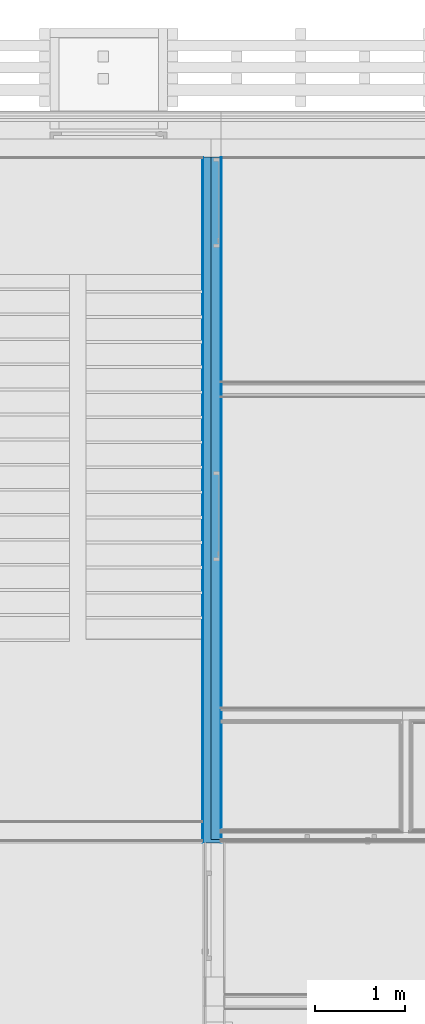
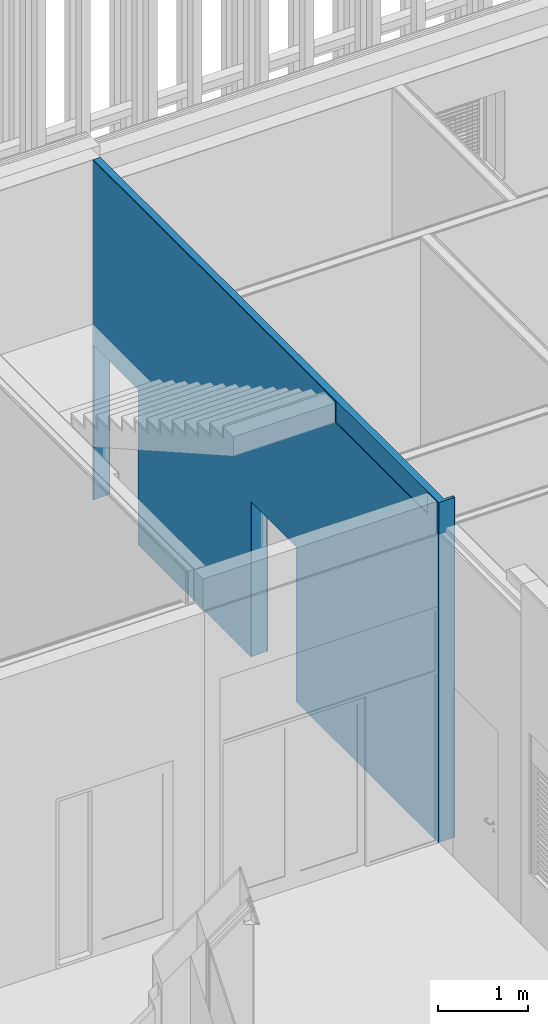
# One storey, part 118 of 260: 3 building element parts, 2 openings, 1 element without a shape of its own.
"""IFC2X3 building model written with IfcOpenShell, lengths in millimetres."""

import ifcopenshell
import ifcopenshell.guid

model = None  # the IFC model being written
_history = None  # IfcOwnerHistory: only IFC2X3 demands one
_inside = {}  # id of a spatial element -> (the spatial element, [elements in it])
_under = {}  # id of a project, library or spatial element -> (it, [spatial elements below it])
_declared = {}  # id of a project -> (the project, [libraries it declares])
_typed = {}  # id of a type object -> (the type object, [elements of that type])
_made_of = {}  # id of a material, layer set ... -> (it, [elements and type objects made of it])


def new_model(schema):
    """Start an empty IFC model of exactly this schema.

    Asked for "IFC4X3", IfcOpenShell would pick the latest addendum, in which some entities
    have other attributes; the version numbers below select the first issue.
    IFC2X3 requires an IfcOwnerHistory on every rooted entity: one is made here for all.
    """
    global model, _history
    if schema == "IFC4X3":
        model = ifcopenshell.file(schema_version=(4, 3, 0, 0))
    else:
        model = ifcopenshell.file(schema=schema)
    _inside.clear()
    _under.clear()
    _declared.clear()
    _typed.clear()
    _made_of.clear()
    _history = None
    if model.schema == "IFC2X3":
        org = make("IfcOrganization", Name="unknown")
        user = make(
            "IfcPersonAndOrganization",
            ThePerson=make("IfcPerson", FamilyName="unknown"),
            TheOrganization=org,
        )
        app = make(
            "IfcApplication",
            ApplicationDeveloper=org,
            Version="unknown",
            ApplicationFullName="unknown",
            ApplicationIdentifier="unknown",
        )
        _history = make(
            "IfcOwnerHistory",
            OwningUser=user,
            OwningApplication=app,
            ChangeAction="ADDED",
            CreationDate=0,
        )
    return model


def make(cls, **values):
    """One entity of the class cls with the attributes given. An attribute that is None is left unset."""
    return model.create_entity(
        cls, **{name: value for name, value in values.items() if value is not None}
    )


def entity(cls, *values):
    """Any entity or typed value of the class cls, its attributes in the order of the schema. None: left unset."""
    e = model.create_entity(cls)
    for i, value in enumerate(values):
        if value is not None:
            e[i] = value
    return e


def rooted(cls, **values):
    """An entity with a GlobalId (a new one), such as an element, a storey or a relation."""
    return make(cls, GlobalId=ifcopenshell.guid.new(), OwnerHistory=_history, **values)


def si_unit(unit_type, name, prefix=None):
    """IfcSIUnit, for example si_unit("LENGTHUNIT", "METRE", prefix="MILLI")."""
    return make("IfcSIUnit", UnitType=unit_type, Prefix=prefix, Name=name)


def converted_unit(unit_type, name, factor, base, dimensions=None, offset=None):
    """IfcConversionBasedUnit, such as the inch: factor (a typed value) times the base unit."""
    return make(
        "IfcConversionBasedUnit"
        if offset is None
        else "IfcConversionBasedUnitWithOffset",
        ConversionOffset=offset,
        Dimensions=None
        if dimensions is None
        else entity("IfcDimensionalExponents", *dimensions),
        UnitType=unit_type,
        Name=name,
        ConversionFactor=make(
            "IfcMeasureWithUnit", ValueComponent=factor, UnitComponent=base
        ),
    )


def derived_unit(unit_type, elements):
    """IfcDerivedUnit: a product of units, each with its exponent."""
    return make(
        "IfcDerivedUnit",
        Elements=[
            make("IfcDerivedUnitElement", Unit=unit, Exponent=power)
            for unit, power in elements
        ],
        UnitType=unit_type,
    )


def money_unit(currency):
    """IfcMonetaryUnit."""
    return make("IfcMonetaryUnit", Currency=currency)


def assignment(units):
    """IfcUnitAssignment: the units of a project."""
    return None if units is None else make("IfcUnitAssignment", Units=units)


def point(xyz):
    """IfcCartesianPoint."""
    return None if xyz is None else make("IfcCartesianPoint", Coordinates=xyz)


def direction(xyz):
    """IfcDirection."""
    return None if xyz is None else make("IfcDirection", DirectionRatios=xyz)


def frame(location, z_axis=None, x_axis=None):
    """IfcAxis2Placement3D, a coordinate frame: its origin and axes. An axis left out is left unset."""
    return make(
        "IfcAxis2Placement3D",
        Location=point(location),
        Axis=direction(z_axis),
        RefDirection=direction(x_axis),
    )


def origin_with_axes():
    """The frame at (0, 0, 0) with the z axis (0, 0, 1) and the x axis (1, 0, 0) written out."""
    return frame((0.0, 0.0, 0.0), z_axis=(0.0, 0.0, 1.0), x_axis=(1.0, 0.0, 0.0))


def place(relative_to, where):
    """IfcLocalPlacement: puts the frame where relative to a parent placement (None: the world)."""
    return make(
        "IfcLocalPlacement", PlacementRelTo=relative_to, RelativePlacement=where
    )


def context(
    kind, dimensions, precision=None, world=None, true_north=None, identifier=None
):
    """IfcGeometricRepresentationContext, for example the 3D "Model" context."""
    return make(
        "IfcGeometricRepresentationContext",
        ContextIdentifier=identifier,
        ContextType=kind,
        CoordinateSpaceDimension=dimensions,
        Precision=precision,
        WorldCoordinateSystem=world,
        TrueNorth=true_north,
    )


def subcontext(parent, identifier, kind, view, scale=None):
    """IfcGeometricRepresentationSubContext, for example "Body" below "Model"."""
    return make(
        "IfcGeometricRepresentationSubContext",
        ContextIdentifier=identifier,
        ContextType=kind,
        ParentContext=parent,
        TargetScale=scale,
        TargetView=view,
    )


def project(units=None, contexts=None):
    """IfcProject with its units and contexts."""
    return rooted(
        "IfcProject",
        Name="project",
        RepresentationContexts=contexts,
        UnitsInContext=assignment(units),
    )


def spatial(cls, under=None, at=None, **own):
    """A site, building, storey or space (cls), placed at a placement, below another one or the project."""
    s = rooted(cls, ObjectPlacement=at, **own)
    if under is not None:
        _under.setdefault(under.id(), (under, []))[1].append(s)
    return s


def faces_of(points, faces, orient=None, outer=None):
    """IfcFace entities. A face is a list of loops; a loop is a list of indices into points, from 0.

    orient and outer hold one flag for each loop. By default every Orientation is true, the
    first loop of a face is its IfcFaceOuterBound and the others are IfcFaceBound.
    """
    made = []
    for i, loops in enumerate(faces):
        bounds = []
        for j, loop in enumerate(loops):
            is_outer = j == 0 if outer is None else outer[i][j]
            bounds.append(
                make(
                    "IfcFaceOuterBound" if is_outer else "IfcFaceBound",
                    Bound=make("IfcPolyLoop", Polygon=[points[k] for k in loop]),
                    Orientation=True if orient is None else orient[i][j],
                )
            )
        made.append(make("IfcFace", Bounds=bounds))
    return made


def faceted_brep(points, faces, orient=None, outer=None, voids=None):
    """IfcFacetedBrep: a solid bounded by flat faces; with voids (closed shells), ...WithVoids."""
    shared = [point(p) for p in points]
    hull = make("IfcClosedShell", CfsFaces=faces_of(shared, faces, orient, outer))
    if voids is None:
        return make("IfcFacetedBrep", Outer=hull)
    return make(
        "IfcFacetedBrepWithVoids",
        Outer=hull,
        Voids=[
            make(cls, CfsFaces=faces_of(shared, fs, o, b)) for cls, fs, o, b in voids
        ],
    )


def shape(context_of_items, identifier, shape_type, items):
    """IfcShapeRepresentation: the items that make up one representation, for example the "Body"."""
    return make(
        "IfcShapeRepresentation",
        ContextOfItems=context_of_items,
        RepresentationIdentifier=identifier,
        RepresentationType=shape_type,
        Items=items,
    )


def material(Name=None, Category=None):
    """IfcMaterial."""
    return make("IfcMaterial", Name=Name, Category=Category)


def made_of(thing, what):
    """Note that an element or type object is made of a material, layer set ...; save() writes the relation."""
    if what is not None:
        _made_of.setdefault(what.id(), (what, []))[1].append(thing)
    return thing


def type_object(cls, material=None, **own):
    """A type object (cls), such as IfcWallType, which elements share."""
    return made_of(rooted(cls, **own), material)


def element(
    cls,
    number,
    at=None,
    inside=None,
    cuts=None,
    type_object=None,
    material=None,
    context=None,
    identifier="Body",
    shape_type=None,
    held_by="IfcProductDefinitionShape",
    body=None,
    shapes=None,
    **own,
):
    """One element of the class cls, such as IfcWall. Its Tag is "e" and its number.

    at: its placement. inside: the storey or other place that contains it. cuts: it is an
    opening in that element (IfcRelVoidsElement). A single representation is given by context,
    identifier, shape_type and body (its items); several are given by shapes. held_by: the class
    of the entity that holds the representations. save() writes the other relations.
    """
    e = rooted(cls, Tag="e%d" % number, ObjectPlacement=at, **own)
    if body is not None:
        shapes = [shape(context, identifier, shape_type, body)]
    if shapes is not None:
        e.Representation = make(held_by, Representations=shapes)
    if inside is not None:
        _inside.setdefault(inside.id(), (inside, []))[1].append(e)
    if cuts is not None:
        rooted(
            "IfcRelVoidsElement", RelatingBuildingElement=cuts, RelatedOpeningElement=e
        )
    if type_object is not None:
        _typed.setdefault(type_object.id(), (type_object, []))[1].append(e)
    return made_of(e, material)


def aggregate(whole, parts):
    """IfcRelAggregates: a whole, such as a stair, and the parts it consists of."""
    return rooted("IfcRelAggregates", RelatingObject=whole, RelatedObjects=parts)


def save(model, path):
    """Write the relations noted so far, then the file.

    IfcRelAggregates (storeys below a building ...), IfcRelContainedInSpatialStructure (elements
    in a storey), IfcRelDefinesByType, IfcRelAssociatesMaterial and IfcRelDeclares: one each for
    every whole, place, type object, material and project.
    """
    for whole, parts in _under.values():
        aggregate(whole, parts)
    for where, things in _inside.values():
        rooted(
            "IfcRelContainedInSpatialStructure",
            RelatedElements=things,
            RelatingStructure=where,
        )
    for kind, things in _typed.values():
        rooted("IfcRelDefinesByType", RelatedObjects=things, RelatingType=kind)
    for what, things in _made_of.values():
        rooted("IfcRelAssociatesMaterial", RelatedObjects=things, RelatingMaterial=what)
    for by, libraries in _declared.values():
        rooted("IfcRelDeclares", RelatingContext=by, RelatedDefinitions=libraries)
    model.write(path)


model = new_model("IFC2X3")

# Units and contexts
model_context = context("Model", 3, precision=0.01, world=origin_with_axes(), true_north=direction((0.0, 1.0)))
body_context = subcontext(model_context, "Body", "Model", "MODEL_VIEW")
ifc_project = project(units=[si_unit("LENGTHUNIT", "METRE", prefix="MILLI"), si_unit("AREAUNIT", "SQUARE_METRE"), si_unit("VOLUMEUNIT", "CUBIC_METRE"), converted_unit("PLANEANGLEUNIT", "DEGREE", entity("IfcPlaneAngleMeasure", 0.0174532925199), si_unit("PLANEANGLEUNIT", "RADIAN"), dimensions=[0, 0, 0, 0, 0, 0, 0]), money_unit("EUR"), converted_unit("TIMEUNIT", "Year", entity("IfcTimeMeasure", 31556926.0), si_unit("TIMEUNIT", "SECOND"), dimensions=[0, 0, 1, 0, 0, 0, 0]), si_unit("MASSUNIT", "GRAM", prefix="KILO"), si_unit("THERMODYNAMICTEMPERATUREUNIT", "DEGREE_CELSIUS"), si_unit("LUMINOUSINTENSITYUNIT", "LUMEN"), si_unit("ENERGYUNIT", "JOULE", prefix="MEGA"), derived_unit("THERMALCONDUCTANCEUNIT", [(si_unit("POWERUNIT", "WATT"), 1), (si_unit("LENGTHUNIT", "METRE"), -1), (si_unit("THERMODYNAMICTEMPERATUREUNIT", "KELVIN"), -1)]), derived_unit("SPECIFICHEATCAPACITYUNIT", [(si_unit("ENERGYUNIT", "JOULE"), 1), (si_unit("MASSUNIT", "GRAM", prefix="KILO"), -1), (si_unit("THERMODYNAMICTEMPERATUREUNIT", "KELVIN"), -1)]), derived_unit("MASSDENSITYUNIT", [(si_unit("MASSUNIT", "GRAM", prefix="KILO"), 1), (si_unit("VOLUMEUNIT", "CUBIC_METRE"), -1)])], contexts=[model_context])

# Site, building, storey
site_placement = place(None, origin_with_axes())
site = spatial("IfcSite", under=ifc_project, at=site_placement, Name="Kolde pst 67a", CompositionType="ELEMENT")
building_placement = place(site_placement, origin_with_axes())
building = spatial("IfcBuilding", under=site, at=building_placement, Name="Riigigümnaasium", CompositionType="ELEMENT")
storey_placement = place(building_placement, origin_with_axes())
storey = spatial("IfcBuildingStorey", under=building, at=storey_placement, Name="1. korrus", CompositionType="ELEMENT", Elevation=0.0)

# Wall, openings, building element parts
wall_type = type_object("IfcWallType", Name="SS-RB-20/1_+2 krohv 55 dB 220", PredefinedType="NOTDEFINED")
wall_placement = place(storey_placement, frame((52589.9941222, 60240.0001843, 0.0), z_axis=(0.0, 0.0, 1.0), x_axis=(0.0, -1.0, 0.0)))
wall = element("IfcWall", 1, at=wall_placement, inside=storey, type_object=wall_type, Name="Sisesein")
opening_1_placement = place(wall_placement, frame((510.0, 0.0, 0.0), z_axis=(0.0, 0.0, 1.0), x_axis=(1.0, 0.0, 0.0)))
element("IfcOpeningElement", 2, at=opening_1_placement, cuts=wall, Name="Siseuks", context=body_context, shape_type="Brep", body=[
    faceted_brep([(-500.0, 440.0, 2100.0), (-500.0, 440.0, 0.0), (-500.0, -220.0, 0.0), (-500.0, -220.0, 2100.0), (500.0, 440.0, 2100.0), (500.0, 440.0, 0.0), (500.0, -220.0, 0.0), (500.0, -220.0, 2100.0)], [[[0, 1, 2, 3]], [[0, 4, 5, 1]], [[1, 5, 6, 2]], [[3, 2, 6, 7]], [[4, 0, 3, 7]], [[5, 4, 7, 6]]]),
])
opening_2_placement = place(wall_placement, frame((4010.01693592, 0.0, 0.0), z_axis=(0.0, 0.0, 1.0), x_axis=(1.0, 0.0, 0.0)))
element("IfcOpeningElement", 3, at=opening_2_placement, cuts=wall, Name="Siseuks", context=body_context, shape_type="Brep", body=[
    faceted_brep([(-500.0, 440.0, 2100.0), (-500.0, 440.0, 0.0), (-500.0, -220.0, 0.0), (-500.0, -220.0, 2100.0), (500.0, 440.0, 2100.0), (500.0, 440.0, 0.0), (500.0, -220.0, 0.0), (500.0, -220.0, 2100.0)], [[[0, 1, 2, 3]], [[0, 4, 5, 1]], [[1, 5, 6, 2]], [[3, 2, 6, 7]], [[4, 0, 3, 7]], [[5, 4, 7, 6]]]),
])
ifc_material_1 = material(Name="_VIIMISTLUSKIHT - viimistlus vastavalt SA osale")
building_element_part_1_placement = place(wall_placement, origin_with_axes())
building_element_part_1 = element("IfcBuildingElementPart", 4, at=building_element_part_1_placement, material=ifc_material_1, Name="_VIIMISTLUSKIHT - viimistlus vastavalt SA osale", context=body_context, shape_type="Brep", body=[
    faceted_brep([(0.0, 200.0, 4230.0), (0.0, 210.0, 4230.0), (0.0, 210.0, 0.0), (0.0, 200.0, 0.0), (7620.0, 210.0, 4230.0), (7620.0, 200.0, 4230.0), (7620.0, 210.0, 4600.0), (7660.0, 210.0, 4600.0), (7660.0, 210.0, 0.0), (4510.01693592, 210.0, 0.0), (4510.01693592, 210.0, 2100.0), (3510.01693592, 210.0, 2100.0), (3510.01693592, 210.0, 0.0), (1010.0, 210.0, 0.0), (1010.0, 210.0, 2100.0), (10.0, 210.0, 2100.0), (10.0, 210.0, 0.0), (10.0, 200.0, 0.0), (10.0, 200.0, 2100.0), (1010.0, 200.0, 2100.0), (1010.0, 200.0, 0.0), (3510.01693592, 200.0, 0.0), (3510.01693592, 200.0, 2100.0), (4510.01693592, 200.0, 2100.0), (4510.01693592, 200.0, 0.0), (7660.0, 200.0, 0.0), (7660.0, 200.0, 4600.0), (7620.0, 200.0, 4600.0)], [[[0, 1, 2, 3]], [[4, 1, 0, 5]], [[4, 6, 7, 8, 9, 10, 11, 12, 13, 14, 15, 16, 2, 1]], [[16, 17, 3, 2]], [[5, 0, 3, 17, 18, 19, 20, 21, 22, 23, 24, 25, 26, 27]], [[4, 5, 27, 6]], [[6, 27, 26, 7]], [[7, 26, 25, 8]], [[25, 24, 9, 8]], [[23, 10, 9, 24]], [[22, 11, 10, 23]], [[21, 12, 11, 22]], [[13, 12, 21, 20]], [[14, 13, 20, 19]], [[15, 14, 19, 18]], [[16, 15, 18, 17]]]),
])
ifc_material_2 = material(Name="_KANDETARIND - monteeritav raudbetoon vastavalt EK osale")
building_element_part_2_placement = place(wall_placement, origin_with_axes())
building_element_part_2 = element("IfcBuildingElementPart", 5, at=building_element_part_2_placement, material=ifc_material_2, Name="_KANDETARIND - monteeritav raudbetoon vastavalt EK osale", context=body_context, shape_type="Brep", body=[
    faceted_brep([(0.0, 90.0000000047, 4230.0), (0.0, 200.0, 4230.0), (0.0, 200.0, 0.0), (0.0, 0.0, 0.0), (0.0, 0.0, 4600.0), (0.0, 90.0000000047, 4600.0), (7620.0, 200.0, 4230.0), (7620.0, 90.0000001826, 4230.0), (7620.0, 200.0, 4600.0), (7660.0, 200.0, 4600.0), (7660.0, 200.0, 0.0), (4510.01693592, 200.0, 0.0), (4510.01693592, 200.0, 2100.0), (3510.01693592, 200.0, 2100.0), (3510.01693592, 200.0, 0.0), (1010.0, 200.0, 0.0), (1010.0, 200.0, 2100.0), (10.0, 200.0, 2100.0), (10.0, 200.0, 0.0), (10.0, 0.0, 0.0), (3510.01693592, 0.0, 0.0), (3510.01693592, 0.0, 2100.0), (4510.01693592, 0.0, 2100.0), (4510.01693592, 0.0, 0.0), (7660.0, 0.0, 0.0), (7660.0, 0.0, 4600.0), (10.0, 0.0, 2100.0), (1010.0, 0.0, 2100.0), (1010.0, 0.0, 0.0), (7620.0, 90.0000001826, 4600.0)], [[[0, 1, 2, 3, 4, 5]], [[6, 1, 0, 7]], [[6, 8, 9, 10, 11, 12, 13, 14, 15, 16, 17, 18, 2, 1]], [[2, 18, 19, 3]], [[20, 21, 22, 23, 24, 25, 4, 3, 19, 26, 27, 28]], [[29, 5, 4, 25, 9, 8]], [[7, 0, 5, 29]], [[6, 7, 29, 8]], [[10, 9, 25, 24]], [[10, 24, 23, 11]], [[23, 22, 12, 11]], [[22, 21, 13, 12]], [[21, 20, 14, 13]], [[28, 15, 14, 20]], [[27, 16, 15, 28]], [[26, 17, 16, 27]], [[19, 18, 17, 26]]]),
])
building_element_part_3_placement = place(wall_placement, origin_with_axes())
building_element_part_3 = element("IfcBuildingElementPart", 6, at=building_element_part_3_placement, material=ifc_material_1, Name="_VIIMISTLUSKIHT - viimistlus vastavalt SA osale", context=body_context, shape_type="Brep", body=[
    faceted_brep([(5379.98275657, -10.0, 4600.0), (5379.98275657, -10.0, 4310.0), (5379.98269238, 0.0, 4310.0), (5379.98269238, 0.0, 4600.0), (0.0, -10.0, 4600.0), (0.0, -10.0, 0.0), (10.0, -10.0, 0.0), (10.0, -10.0, 2100.0), (1010.0, -10.0, 2100.0), (1010.0, -10.0, 0.0), (3510.01693592, -10.0, 0.0), (3510.01693592, -10.0, 2100.0), (4510.01693592, -10.0, 2100.0), (4510.01693592, -10.0, 0.0), (7660.0, -10.0, 0.0), (7660.0, -10.0, 4600.0), (7430.00000379, -10.0, 4600.0), (7430.00000379, -10.0, 4310.0), (7430.00000379, 0.0, 4310.0), (7430.00000379, 0.0, 4600.0), (7660.0, 0.0, 4600.0), (7660.0, 0.0, 0.0), (4510.01693592, 0.0, 0.0), (4510.01693592, 0.0, 2100.0), (3510.01693592, 0.0, 2100.0), (3510.01693592, 0.0, 0.0), (1010.0, 0.0, 0.0), (1010.0, 0.0, 2100.0), (10.0, 0.0, 2100.0), (10.0, 0.0, 0.0), (0.0, 0.0, 0.0), (0.0, 0.0, 4600.0)], [[[0, 1, 2, 3]], [[1, 0, 4, 5, 6, 7, 8, 9, 10, 11, 12, 13, 14, 15, 16, 17]], [[18, 2, 1, 17]], [[18, 19, 20, 21, 22, 23, 24, 25, 26, 27, 28, 29, 30, 31, 3, 2]], [[0, 3, 31, 4]], [[5, 4, 31, 30]], [[29, 6, 5, 30]], [[29, 28, 7, 6]], [[28, 27, 8, 7]], [[27, 26, 9, 8]], [[26, 25, 10, 9]], [[10, 25, 24, 11]], [[11, 24, 23, 12]], [[12, 23, 22, 13]], [[14, 13, 22, 21]], [[20, 15, 14, 21]], [[19, 16, 15, 20]], [[18, 17, 16, 19]]]),
])
aggregate(wall, [building_element_part_1, building_element_part_2, building_element_part_3])

save(model, "model.ifc")
